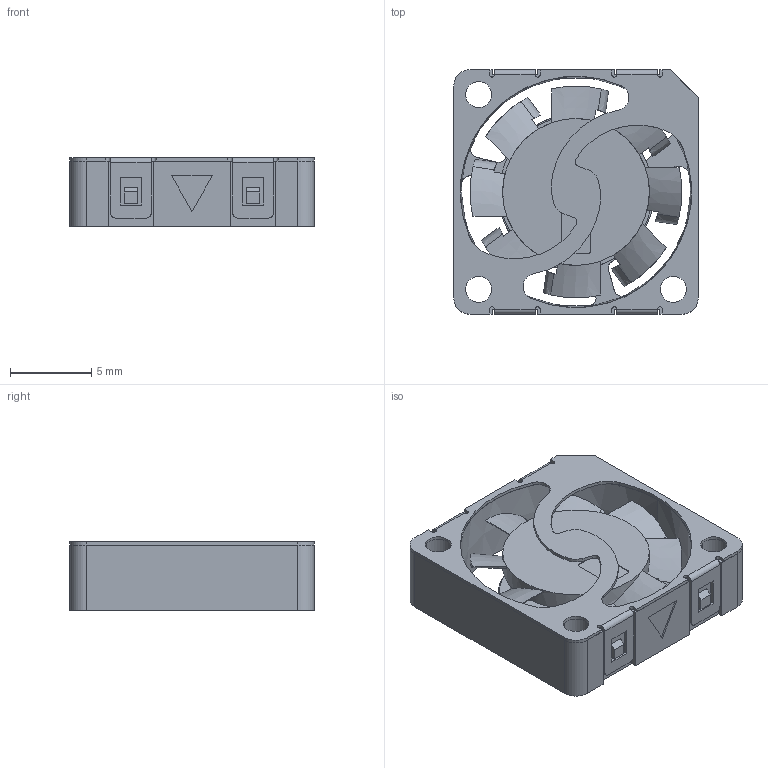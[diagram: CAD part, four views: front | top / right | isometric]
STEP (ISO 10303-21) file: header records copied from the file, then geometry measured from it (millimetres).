
FILE_DESCRIPTION((''),'2;1');
FILE_NAME('ASM-FS2_ASM_52_ASM','2023-05-25T16:48:25',('pc'),(''),'CREO PARAMETRIC BY PTC INC, 2018050','CREO PARAMETRIC BY PTC INC, 2018050','');
FILE_SCHEMA(('CONFIG_CONTROL_DESIGN','GEOMETRIC_VALIDATION_PROPERTIES_MIM'));
Length unit declared in the file: millimetre
Products named in the file (12): FS-2-1_63; FS-2-2_22; FS-2-3_46; FS-1-9_4; FS-2-B_3; FS-2-A_6; A-B_ASM; FS-1-4_5; FS-1-5_4; FS-1-6_2; PCB-0; ASM-FS2_ASM_52_ASM
Assembly tree (11 placements, depth 3):
  ASM-FS2_ASM_52_ASM
    FS-2-1_63
    FS-2-2_22
    A-B_ASM
      FS-2-3_46
      FS-1-9_4
      FS-2-B_3
      FS-2-A_6
    FS-1-4_5
    FS-1-5_4
    FS-1-6_2
    PCB-0
Bounding box: 15 x 15 x 4.2 mm (x, y, z)
Volume: 361 mm3; surface area: 1814.1 mm2
Topology: 10 solids, 10 shells, 448 faces, 1205 edges, 796 vertices
Faces by surface type: plane 205, cylinder 184, bspline 40, cone 15, sphere 4
Entity records: 18614 total; most frequent: CARTESIAN_POINT 4589, ORIENTED_EDGE 2402, DIRECTION 2338, EDGE_CURVE 1201, AXIS2_PLACEMENT_3D 865, VERTEX_POINT 796, VECTOR 608, LINE 608
